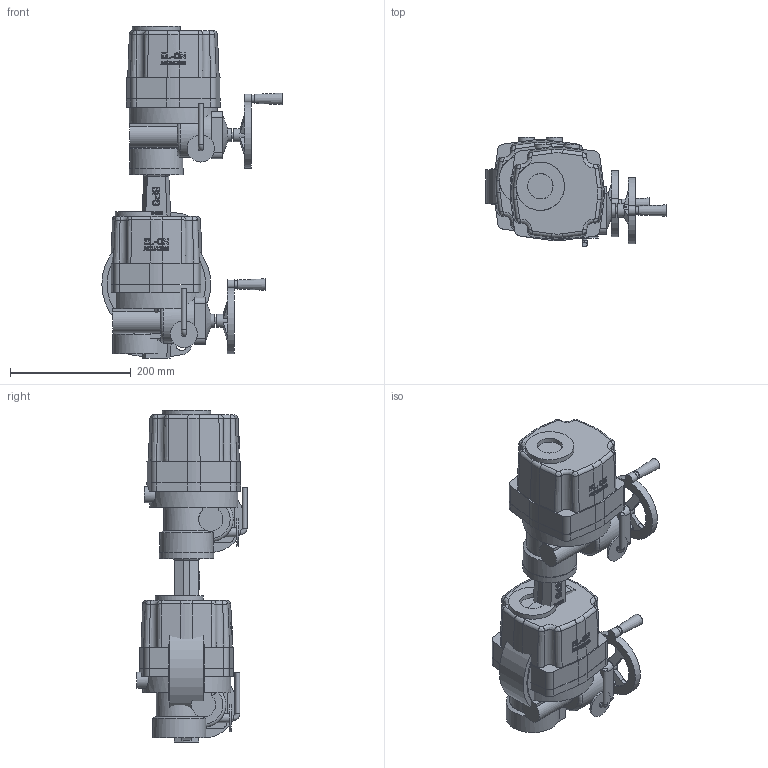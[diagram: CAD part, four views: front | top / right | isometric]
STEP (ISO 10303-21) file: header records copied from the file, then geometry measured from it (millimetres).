
FILE_DESCRIPTION( ( 'Unknown' ), '1' );
FILE_NAME( 'R:/ECCUA/ROOTSI BPS 3D vidinad/Poordklapid Wafer type/Butterfly valve(wafer) with electric actuator BPS/STEP formaat/BPS 2303125E butterfly valve DN125.stp', 'Unknown', ( 'Unknown' ), ( 'Unknown' ), 'PSStep 10.1', 'Unknown', ' ' );
FILE_SCHEMA( ( 'AUTOMOTIVE_DESIGN { 1 0 10303 214 1 1 1 1 }' ) );
Length unit declared in the file: millimetre
Products named in the file (3): Assem1; Butterfly valve wafer type DN125 BPS; BPS 8005100 electric actuator DN125 
Bounding box: 298 x 182 x 549 mm (x, y, z)
Volume: 10133201 mm3; surface area: 782261.3 mm2
Topology: 4 solids, 4 shells, 1006 faces, 2590 edges, 1684 vertices
Faces by surface type: plane 434, cylinder 210, bspline 144, extrusion 106, cone 80, torus 32
Full cylindrical faces by diameter (mm): 8 x4, 9 x8, 12 x4, 15 x2, 20 x2, 22 x4, 27 x4, 42 x2, 45 x2, 76 x2, 80 x4, 88 x2, 90 x2, 125 x2, 146 x2, 163 x4, 180 x2
Entity records: 29972 total; most frequent: CARTESIAN_POINT 14791, ORIENTED_EDGE 2492, DIRECTION 1857, EDGE_CURVE 1246, VERTEX_POINT 827, AXIS2_PLACEMENT_3D 661, EDGE_LOOP 609, B_SPLINE_CURVE_WITH_KNOTS 537
